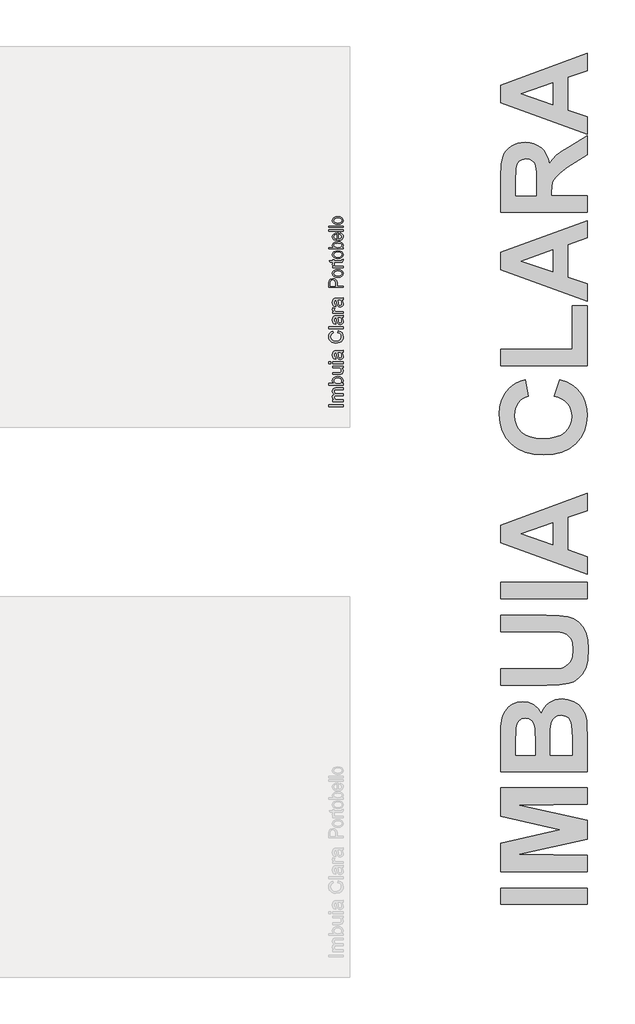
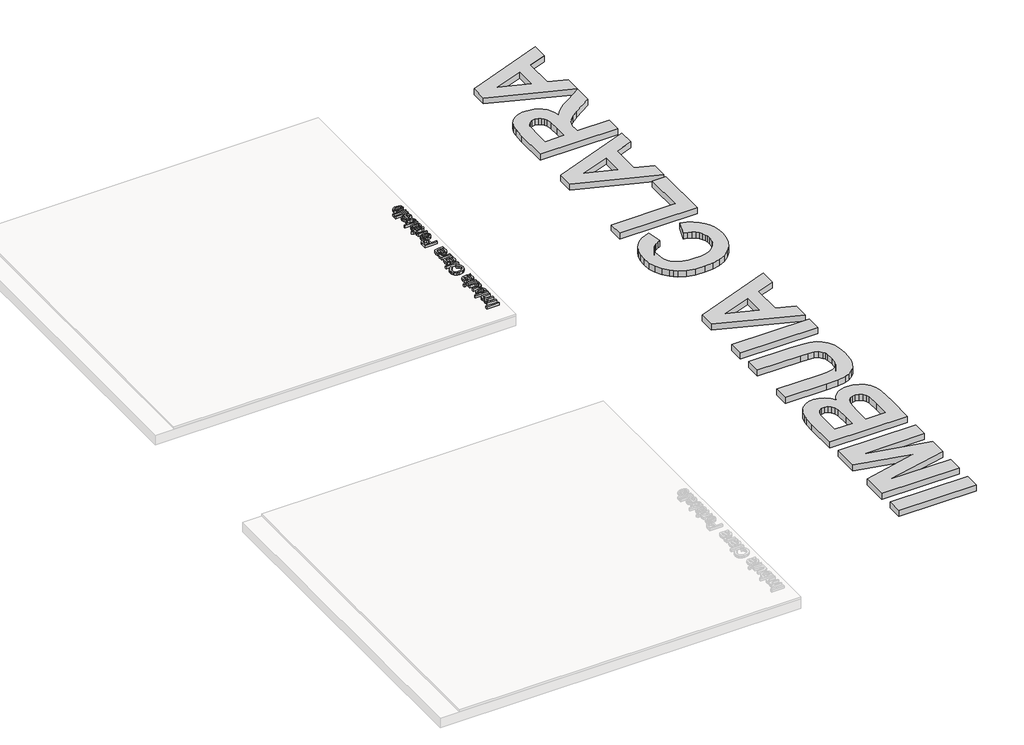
# One storey, part 3 of 10: 3 proxies.
"""IFC4 building model written with IfcOpenShell, lengths in millimetres."""

from ifc_helpers import new_model, si_unit, frame, origin, origin_with_axes, place, context, project, spatial, polyline, outline, extrude, element, save

model = new_model("IFC4")

# Units and contexts
model_context = context("Model", 3, world=origin())
ifc_project = project(units=[si_unit("LENGTHUNIT", "METRE", prefix="MILLI")], contexts=[model_context])

# Site, building, storey
site = spatial("IfcSite", under=ifc_project)
building = spatial("IfcBuilding", under=site)
storey = spatial("IfcBuildingStorey", under=building, Name="PORTOBELLO - SHOWROOM", Elevation=0.0)

# Proxies
placement = place(None, origin())
element("IfcBuildingElementProxy", 1, Name="10mm Arial", ObjectType="10mm Arial", at=placement, inside=storey, context=model_context, shape_type="SweptSolid", body=[
    extrude(outline(polyline([(154197.2239346, -5179.927129), (154096.7676245, -5179.927129), (154096.7676245, -5167.3700902), (154197.2239346, -5167.3700902), (154197.2239346, -5179.927129)])), frame((0.0, 0.0, 17.0), z_axis=(0.0, 0.0, 1.0), x_axis=(1.0, 0.0, 0.0)), (0.0, 0.0, 1.0), 20.0),
    extrude(outline(polyline([(154197.2239346, -5143.8256425), (154123.4513318, -5143.8256425), (154123.4513318, -5131.2686037), (154135.5914377, -5131.2686037), (154125.6463611, -5122.6356396), (154121.881702, -5110.3483809), (154125.7199375, -5097.7668167), (154136.4743545, -5090.8506352), (154125.5298651, -5081.0527114), (154121.881702, -5068.6796136), (154123.3992152, -5059.2403748), (154127.9517549, -5052.2598139), (154135.6619484, -5047.9463975), (154146.652423, -5046.5085921), (154197.2239346, -5046.5085921), (154197.2239346, -5059.0656308), (154152.0480256, -5059.0656308), (154141.5633887, -5060.2305905), (154136.4007781, -5064.4489707), (154134.4387408, -5071.6226696), (154139.4664614, -5083.9712419), (154146.0086295, -5087.6592589), (154155.5796927, -5088.8885979), (154197.2239346, -5088.8885979), (154197.2239346, -5101.4456367), (154150.650074, -5101.4456367), (154138.4854427, -5104.3519044), (154134.4387408, -5113.8800481), (154137.1365421, -5123.1751998), (154145.0337422, -5129.3556174), (154160.0188022, -5131.2686037), (154197.2239346, -5131.2686037), (154197.2239346, -5143.8256425)])), frame((0.0, 0.0, 17.0), z_axis=(0.0, 0.0, 1.0), x_axis=(1.0, 0.0, 0.0)), (0.0, 0.0, 1.0), 20.0),
    extrude(outline(polyline([(154197.2239346, -5015.1159951), (154197.2239346, -5027.6730339), (154096.7676245, -5027.6730339), (154096.7676245, -5015.1159951), (154134.0218078, -5015.1159951), (154124.9167285, -5006.3236154), (154121.881702, -4995.3975202), (154124.6162915, -4982.815956), (154132.3050252, -4973.0548203), (154144.26119, -4967.0583438), (154159.2339872, -4964.8878401), (154175.9971435, -4967.1349859), (154188.4683431, -4973.8764235), (154196.2122591, -4983.7693835), (154198.7935644, -4995.4710966), (154195.4642324, -5006.6363151), (154185.4762362, -5015.1159951), (154197.2239346, -5015.1159951)]), holes=[polyline([(154159.8225984, -5015.1159951), (154177.3828323, -5011.6824298), (154184.0231023, -5005.1034735), (154186.2365257, -4996.5502171), (154184.6055822, -4989.3029418), (154179.7127516, -4983.1102615), (154171.5886909, -4978.8612245), (154160.2640568, -4977.4448788), (154148.7738758, -4978.8029765), (154140.7417856, -4982.8772696), (154136.014502, -4988.8768118), (154134.4387408, -4996.0106568), (154136.0696843, -5003.2579322), (154140.9625148, -5009.4506124), (154148.9394227, -5013.6996494), (154159.8225984, -5015.1159951)])]), frame((0.0, 0.0, 17.0), z_axis=(0.0, 0.0, 1.0), x_axis=(1.0, 0.0, 0.0)), (0.0, 0.0, 1.0), 20.0),
    extrude(outline(polyline([(154197.2239346, -4903.6722761), (154184.5442685, -4903.6722761), (154195.2312405, -4913.5069881), (154198.7935644, -4926.333807), (154196.2919669, -4938.142819), (154190.0134475, -4946.2852738), (154180.7673467, -4950.0254074), (154169.0932247, -4950.7611714), (154123.4513318, -4950.7611714), (154123.4513318, -4938.2041327), (154163.1825873, -4938.2041327), (154175.9848807, -4937.4438432), (154183.5019362, -4932.4774363), (154186.2365257, -4923.1209709), (154183.4406225, -4912.636334), (154175.8254652, -4905.7078898), (154161.8336867, -4903.6722761), (154123.4513318, -4903.6722761), (154123.4513318, -4891.1152373), (154197.2239346, -4891.1152373), (154197.2239346, -4903.6722761)])), frame((0.0, 0.0, 17.0), z_axis=(0.0, 0.0, 1.0), x_axis=(1.0, 0.0, 0.0)), (0.0, 0.0, 1.0), 20.0),
    extrude(outline(polyline([(154109.3246632, -4873.849309), (154096.7676245, -4873.849309), (154096.7676245, -4861.2922702), (154109.3246632, -4861.2922702), (154109.3246632, -4873.849309)])), frame((0.0, 0.0, 17.0), z_axis=(0.0, 0.0, 1.0), x_axis=(1.0, 0.0, 0.0)), (0.0, 0.0, 1.0), 20.0),
    extrude(outline(polyline([(154197.2239346, -4873.849309), (154123.4513318, -4873.849309), (154123.4513318, -4861.2922702), (154197.2239346, -4861.2922702), (154197.2239346, -4873.849309)])), frame((0.0, 0.0, 17.0), z_axis=(0.0, 0.0, 1.0), x_axis=(1.0, 0.0, 0.0)), (0.0, 0.0, 1.0), 20.0),
    extrude(outline(polyline([(154187.8061555, -4795.3678167), (154196.3164923, -4807.5447107), (154198.7935644, -4820.996929), (154197.3036424, -4831.4907629), (154192.8338761, -4839.2316132), (154186.0464533, -4844.0048821), (154177.6035615, -4845.5959718), (154167.6707477, -4843.192476), (154160.4602606, -4836.8771685), (154156.3399822, -4828.0847888), (154154.4515213, -4817.2200072), (154150.1350392, -4795.4413931), (154147.3391361, -4795.3678167), (154138.0685098, -4798.8259074), (154134.4387408, -4812.7073214), (154136.8544992, -4825.4115129), (154145.4261497, -4831.4693031), (154143.8565198, -4844.0263419), (154131.5937867, -4838.5939511), (154124.407825, -4827.6555931), (154121.881702, -4811.0886406), (154124.1135194, -4795.8705887), (154129.7175885, -4787.2744128), (154138.240188, -4783.4239146), (154149.227597, -4782.8107779), (154164.850319, -4782.8107779), (154186.6657213, -4782.1731158), (154197.2239346, -4779.6715182), (154197.2239346, -4792.228557), (154187.8061555, -4795.3678167)]), holes=[polyline([(154162.692078, -4795.3678167), (154166.5425762, -4815.6258519), (154168.5781899, -4826.4293198), (154171.8891279, -4831.3221503), (154176.7206447, -4833.038933), (154183.5141989, -4829.2987994), (154186.2365257, -4818.3236532), (154183.2321561, -4805.6194616), (154175.9603553, -4797.4279558), (154166.2482706, -4795.4413931), (154162.692078, -4795.3678167)])]), frame((0.0, 0.0, 17.0), z_axis=(0.0, 0.0, 1.0), x_axis=(1.0, 0.0, 0.0)), (0.0, 0.0, 1.0), 20.0),
    extrude(outline(polyline([(154161.5148556, -4654.1011305), (154164.7522172, -4641.5440918), (154179.3847235, -4647.3382332), (154190.0747612, -4656.4310498), (154196.6138636, -4668.3749519), (154198.7935644, -4682.7223498), (154197.1442268, -4697.2874111), (154192.196214, -4708.8542341), (154184.1212042, -4717.7201902), (154173.0908757, -4724.1826506), (154146.2354901, -4729.4433631), (154131.5876553, -4727.9565067), (154118.938646, -4723.4959376), (154108.6900668, -4716.2946475), (154101.2435221, -4706.5856285), (154096.7093765, -4695.0709221), (154095.1979946, -4682.4525696), (154097.1539005, -4668.684586), (154103.0216184, -4657.3017039), (154112.4393974, -4648.6595427), (154125.0454871, -4643.1137216), (154128.037594, -4655.6707604), (154112.598813, -4665.9714562), (154107.7550334, -4682.943079), (154113.1261105, -4702.5879775), (154127.5470847, -4713.685751), (154146.2109646, -4716.8863244), (154167.8424259, -4713.0971398), (154181.6625262, -4701.3003905), (154186.2365257, -4683.9731485), (154184.6791586, -4673.4915774), (154180.0070572, -4664.7574457), (154172.2692726, -4658.1631609), (154161.5148556, -4654.1011305)])), frame((0.0, 0.0, 17.0), z_axis=(0.0, 0.0, 1.0), x_axis=(1.0, 0.0, 0.0)), (0.0, 0.0, 1.0), 20.0),
    extrude(outline(polyline([(154197.2239346, -4625.8477933), (154096.7676245, -4625.8477933), (154096.7676245, -4613.2907545), (154197.2239346, -4613.2907545), (154197.2239346, -4625.8477933)])), frame((0.0, 0.0, 17.0), z_axis=(0.0, 0.0, 1.0), x_axis=(1.0, 0.0, 0.0)), (0.0, 0.0, 1.0), 20.0),
    extrude(outline(polyline([(154187.8061555, -4547.366301), (154196.3164923, -4559.543195), (154198.7935644, -4572.9954133), (154197.3036424, -4583.4892472), (154192.8338761, -4591.2300976), (154186.0464533, -4596.0033664), (154177.6035615, -4597.5944561), (154167.6707477, -4595.1909604), (154160.4602606, -4588.8756528), (154156.3399822, -4580.0832731), (154154.4515213, -4569.2184915), (154150.1350392, -4547.4398774), (154147.3391361, -4547.366301), (154138.0685098, -4550.8243917), (154134.4387408, -4564.7058057), (154136.8544992, -4577.4099973), (154145.4261497, -4583.4677875), (154143.8565198, -4596.0248262), (154131.5937867, -4590.5924354), (154124.407825, -4579.6540774), (154121.881702, -4563.0871249), (154124.1135194, -4547.8690731), (154129.7175885, -4539.2728971), (154138.240188, -4535.4223989), (154149.227597, -4534.8092622), (154164.850319, -4534.8092622), (154186.6657213, -4534.1716001), (154197.2239346, -4531.6700025), (154197.2239346, -4544.2270413), (154187.8061555, -4547.366301)]), holes=[polyline([(154162.692078, -4547.366301), (154166.5425762, -4567.6243362), (154168.5781899, -4578.4278041), (154171.8891279, -4583.3206347), (154176.7206447, -4585.0374173), (154183.5141989, -4581.2972837), (154186.2365257, -4570.3221375), (154183.2321561, -4557.6179459), (154175.9603553, -4549.4264402), (154166.2482706, -4547.4398774), (154162.692078, -4547.366301)])]), frame((0.0, 0.0, 17.0), z_axis=(0.0, 0.0, 1.0), x_axis=(1.0, 0.0, 0.0)), (0.0, 0.0, 1.0), 20.0),
    extrude(outline(polyline([(154197.2239346, -4517.5433339), (154123.4513318, -4517.5433339), (154123.4513318, -4506.555925), (154134.3651644, -4506.555925), (154124.3097232, -4498.7568267), (154121.881702, -4490.9086775), (154125.7567257, -4478.3025878), (154137.0139147, -4482.4964425), (154134.4387408, -4491.3256104), (154136.9158129, -4498.4257329), (154143.7829434, -4502.9506814), (154158.4491723, -4504.9862952), (154197.2239346, -4504.9862952), (154197.2239346, -4517.5433339)])), frame((0.0, 0.0, 17.0), z_axis=(0.0, 0.0, 1.0), x_axis=(1.0, 0.0, 0.0)), (0.0, 0.0, 1.0), 20.0),
    extrude(outline(polyline([(154187.8061555, -4423.3655432), (154196.3164923, -4435.5424372), (154198.7935644, -4448.9946555), (154197.3036424, -4459.4884894), (154192.8338761, -4467.2293397), (154186.0464533, -4472.0026086), (154177.6035615, -4473.5936982), (154167.6707477, -4471.1902025), (154160.4602606, -4464.8748949), (154156.3399822, -4456.0825153), (154154.4515213, -4445.2177337), (154150.1350392, -4423.4391196), (154147.3391361, -4423.3655432), (154138.0685098, -4426.8236339), (154134.4387408, -4440.7050479), (154136.8544992, -4453.4092394), (154145.4261497, -4459.4670296), (154143.8565198, -4472.0240684), (154131.5937867, -4466.5916776), (154124.407825, -4455.6533196), (154121.881702, -4439.0863671), (154124.1135194, -4423.8683152), (154129.7175885, -4415.2721393), (154138.240188, -4411.421641), (154149.227597, -4410.8085044), (154164.850319, -4410.8085044), (154186.6657213, -4410.1708423), (154197.2239346, -4407.6692447), (154197.2239346, -4420.2262835), (154187.8061555, -4423.3655432)]), holes=[polyline([(154162.692078, -4423.3655432), (154166.5425762, -4443.6235784), (154168.5781899, -4454.4270463), (154171.8891279, -4459.3198768), (154176.7206447, -4461.0366595), (154183.5141989, -4457.2965258), (154186.2365257, -4446.3213797), (154183.2321561, -4433.6171881), (154175.9603553, -4425.4256823), (154166.2482706, -4423.4391196), (154162.692078, -4423.3655432)])]), frame((0.0, 0.0, 17.0), z_axis=(0.0, 0.0, 1.0), x_axis=(1.0, 0.0, 0.0)), (0.0, 0.0, 1.0), 20.0),
])
element("IfcBuildingElementProxy", 2, Name="10mm Arial Narrow", ObjectType="10mm Arial Narrow", at=placement, inside=storey, context=model_context, shape_type="SweptSolid", body=[
    extrude(outline(polyline([(154197.2239346, -4334.1828592), (154096.5053309, -4334.1828592), (154096.5053309, -4302.8859745), (154098.3836516, -4286.590273), (154107.8640948, -4275.1172869), (154124.8832036, -4270.8276084), (154136.9590291, -4272.6139168), (154146.5854229, -4277.972842), (154152.8866813, -4287.7166309), (154154.9871008, -4302.6575301), (154154.9871008, -4324.4358975), (154197.2239346, -4324.4358975), (154197.2239346, -4334.1828592)]), holes=[polyline([(154143.6156455, -4324.4358975), (154143.6156455, -4301.4645426), (154139.0848313, -4285.6003472), (154125.4162405, -4280.5745701), (154115.2504641, -4283.0493846), (154109.4505143, -4289.0270134), (154107.8767861, -4301.692987), (154107.8767861, -4324.4358975), (154143.6156455, -4324.4358975)])]), frame((0.0, 0.0, 17.0), z_axis=(0.0, 0.0, 1.0), x_axis=(1.0, 0.0, 0.0)), (0.0, 0.0, 1.0), 20.0),
    extrude(outline(polyline([(154160.6728284, -4262.7051404), (154144.0820529, -4260.7506715), (154132.129968, -4254.8872649), (154124.9054135, -4246.0286982), (154122.4972286, -4235.088749), (154124.9054135, -4224.2757135), (154132.129968, -4215.391764), (154143.8916825, -4209.4522093), (154159.911347, -4207.4723577), (154177.0732336, -4209.417308), (154189.2156888, -4215.2521591), (154196.4402434, -4224.1012073), (154198.8484282, -4235.088749), (154196.4338977, -4245.9493772), (154189.1903061, -4254.8238081), (154177.2318756, -4260.7348073), (154160.6728284, -4262.7051404)]), holes=[polyline([(154160.6474457, -4252.9581787), (154173.1991971, -4251.6541419), (154182.0704552, -4247.7420313), (154187.3437137, -4241.9008345), (154189.1014666, -4234.8095392), (154187.3278495, -4228.089466), (154182.0069984, -4222.3973927), (154173.1198761, -4218.5138377), (154160.6474457, -4217.2193193), (154148.1337684, -4218.5233562), (154139.2752016, -4222.4354668), (154134.0019431, -4228.2766635), (154132.2441902, -4235.3679589), (154134.0114616, -4242.1356246), (154139.3132757, -4247.8181794), (154148.1813609, -4251.6731789), (154160.6474457, -4252.9581787)])]), frame((0.0, 0.0, 17.0), z_axis=(0.0, 0.0, 1.0), x_axis=(1.0, 0.0, 0.0)), (0.0, 0.0, 1.0), 20.0),
    extrude(outline(polyline([(154189.1014666, -4135.9946389), (154198.8484282, -4134.3701453), (154198.8484282, -4141.731132), (154196.7289717, -4150.0058963), (154190.9290219, -4154.3209574), (154176.2831967, -4155.4885622), (154133.8686839, -4155.4885622), (154133.8686839, -4163.6110303), (154130.6196966, -4163.6110303), (154135.4931775, -4165.2355239), (154133.8686839, -4172.7995722), (154136.1912021, -4178.8787319), (154142.6764851, -4182.7495956), (154158.0837917, -4184.7294472), (154197.2239346, -4184.7294472), (154197.2239346, -4194.4764088), (154124.1217222, -4194.4764088), (154124.1217222, -4184.7294472), (154133.8179184, -4184.7294472), (154124.7309073, -4178.4852999), (154122.4972286, -4172.0888563), (154124.1217222, -4163.6110303), (154124.1217222, -4155.4885622), (154107.8767861, -4155.4885622), (154099.7543181, -4145.7416006), (154124.1217222, -4145.7416006), (154124.1217222, -4135.9946389), (154133.8686839, -4135.9946389), (154133.8686839, -4145.7416006), (154178.5168754, -4145.7416006), (154186.5124299, -4144.8785883), (154189.1014666, -4140.2589346), (154189.1014666, -4135.9946389)])), frame((0.0, 0.0, 17.0), z_axis=(0.0, 0.0, 1.0), x_axis=(1.0, 0.0, 0.0)), (0.0, 0.0, 1.0), 20.0),
    extrude(outline(polyline([(154160.6728284, -4129.4966645), (154144.0820529, -4127.5421956), (154132.129968, -4121.678789), (154124.9054135, -4112.8202223), (154122.4972286, -4101.8802731), (154124.9054135, -4091.0672375), (154132.129968, -4082.1832881), (154143.8916825, -4076.2437333), (154159.911347, -4074.2638818), (154177.0732336, -4076.2088321), (154189.2156888, -4082.0436832), (154196.4402434, -4090.8927314), (154198.8484282, -4101.8802731), (154196.4338977, -4112.7409013), (154189.1903061, -4121.6153322), (154177.2318756, -4127.5263314), (154160.6728284, -4129.4966645)]), holes=[polyline([(154160.6474457, -4119.7497028), (154173.1991971, -4118.4456659), (154182.0704552, -4114.5335554), (154187.3437137, -4108.6923586), (154189.1014666, -4101.6010633), (154187.3278495, -4094.8809901), (154182.0069984, -4089.1889168), (154173.1198761, -4085.3053618), (154160.6474457, -4084.0108434), (154148.1337684, -4085.3148803), (154139.2752016, -4089.2269909), (154134.0019431, -4095.0681876), (154132.2441902, -4102.159483), (154134.0114616, -4108.9271487), (154139.3132757, -4114.6097035), (154148.1813609, -4118.464703), (154160.6474457, -4119.7497028)])]), frame((0.0, 0.0, 17.0), z_axis=(0.0, 0.0, 1.0), x_axis=(1.0, 0.0, 0.0)), (0.0, 0.0, 1.0), 20.0),
    extrude(outline(polyline([(154197.2239346, -4051.5209712), (154197.2239346, -4061.2679329), (154096.5053309, -4061.2679329), (154096.5053309, -4051.5209712), (154131.914215, -4051.5209712), (154124.8324382, -4044.1219105), (154122.4972286, -4034.9206772), (154126.6980675, -4022.0389505), (154139.4274979, -4012.761569), (154160.1144087, -4009.2841374), (154176.5687522, -4011.2163964), (154188.7714913, -4017.0131734), (154196.329194, -4025.3862957), (154198.8484282, -4035.0475907), (154196.2340088, -4044.388429), (154188.4668987, -4051.5209712), (154197.2239346, -4051.5209712)]), holes=[polyline([(154160.1144087, -4051.5209712), (154177.361962, -4049.4395888), (154186.0936151, -4043.5507995), (154189.1014666, -4035.0983562), (154187.3119853, -4029.1556286), (154181.9435416, -4023.9172712), (154160.5205321, -4019.0310991), (154139.0848313, -4023.7395923), (154133.9543505, -4028.9842953), (154132.2441902, -4035.3014179), (154134.0336715, -4041.2790467), (154139.4021152, -4046.5713423), (154160.1144087, -4051.5209712)])]), frame((0.0, 0.0, 17.0), z_axis=(0.0, 0.0, 1.0), x_axis=(1.0, 0.0, 0.0)), (0.0, 0.0, 1.0), 20.0),
    extrude(outline(polyline([(154174.4810241, -3957.3003419), (154176.1055177, -3947.5533803), (154185.9920843, -3951.2529106), (154193.1119352, -3957.0718975), (154197.4143049, -3964.7755508), (154198.8484282, -3974.1290804), (154196.4338977, -3985.7226344), (154189.1903061, -3994.8667566), (154177.3841718, -4000.8063114), (154161.2820135, -4002.786163), (154144.6150898, -4000.7967929), (154132.4345606, -3994.8286826), (154124.9815616, -3985.8146467), (154122.4972286, -3974.6875001), (154124.8958949, -3964.0045509), (154132.091894, -3955.2570336), (154143.8313986, -3949.4221825), (154159.8605816, -3947.4772321), (154163.1095688, -3947.5533803), (154163.1095688, -3993.0392013), (154182.5527267, -3987.0361898), (154187.4642816, -3981.1061535), (154189.1014666, -3974.0021668), (154185.4463559, -3963.8236991), (154174.4810241, -3957.3003419)]), holes=[polyline([(154153.3626072, -3992.3792508), (154153.3626072, -3957.3003419), (154139.0975227, -3961.5646376), (154133.9575233, -3967.3899702), (154132.2441902, -3974.6113519), (154137.9553006, -3986.8204367), (154153.3626072, -3992.3792508)])]), frame((0.0, 0.0, 17.0), z_axis=(0.0, 0.0, 1.0), x_axis=(1.0, 0.0, 0.0)), (0.0, 0.0, 1.0), 20.0),
    extrude(outline(polyline([(154197.2239346, -3934.5574314), (154096.5053309, -3934.5574314), (154096.5053309, -3924.8104697), (154197.2239346, -3924.8104697), (154197.2239346, -3934.5574314)])), frame((0.0, 0.0, 17.0), z_axis=(0.0, 0.0, 1.0), x_axis=(1.0, 0.0, 0.0)), (0.0, 0.0, 1.0), 20.0),
    extrude(outline(polyline([(154197.2239346, -3908.5655337), (154096.5053309, -3908.5655337), (154096.5053309, -3898.818572), (154197.2239346, -3898.818572), (154197.2239346, -3908.5655337)])), frame((0.0, 0.0, 17.0), z_axis=(0.0, 0.0, 1.0), x_axis=(1.0, 0.0, 0.0)), (0.0, 0.0, 1.0), 20.0),
    extrude(outline(polyline([(154160.6728284, -3887.4471167), (154144.0820529, -3885.4926479), (154132.129968, -3879.6292412), (154124.9054135, -3870.7706745), (154122.4972286, -3859.8307254), (154124.9054135, -3849.0176898), (154132.129968, -3840.1337404), (154143.8916825, -3834.1941856), (154159.911347, -3832.214334), (154177.0732336, -3834.1592844), (154189.2156888, -3839.9941355), (154196.4402434, -3848.8431836), (154198.8484282, -3859.8307254), (154196.4338977, -3870.6913536), (154189.1903061, -3879.5657845), (154177.2318756, -3885.4767837), (154160.6728284, -3887.4471167)]), holes=[polyline([(154160.6474457, -3877.7001551), (154173.1991971, -3876.3961182), (154182.0704552, -3872.4840076), (154187.3437137, -3866.6428109), (154189.1014666, -3859.5515155), (154187.3278495, -3852.8314424), (154182.0069984, -3847.1393691), (154173.1198761, -3843.255814), (154160.6474457, -3841.9612957), (154148.1337684, -3843.2653325), (154139.2752016, -3847.1774431), (154134.0019431, -3853.0186399), (154132.2441902, -3860.1099352), (154134.0114616, -3866.877601), (154139.3132757, -3872.5601558), (154148.1813609, -3876.4151553), (154160.6474457, -3877.7001551)])]), frame((0.0, 0.0, 17.0), z_axis=(0.0, 0.0, 1.0), x_axis=(1.0, 0.0, 0.0)), (0.0, 0.0, 1.0), 20.0),
])
element("IfcBuildingElementProxy", 3, Name="600mm Arial", ObjectType="600mm Arial", at=placement, inside=storey, context=model_context, shape_type="SweptSolid", body=[
    extrude(outline(polyline([(155927.5101942, -8708.8014324), (155315.3545543, -8708.8014324), (155315.3545543, -8592.2003582), (155927.5101942, -8592.2003582), (155927.5101942, -8708.8014324)])), origin_with_axes(), (0.0, 0.0, 1.0), 50.0),
    extrude(outline(polyline([(155927.5101942, -8475.5992839), (155315.3545543, -8475.5992839), (155315.3545543, -8275.7984847), (155732.8714218, -8179.2382201), (155315.3545543, -8082.6779554), (155315.3545543, -7882.8771563), (155927.5101942, -7882.8771563), (155927.5101942, -7999.4782306), (155445.6198169, -8004.3366087), (155927.5101942, -8110.9172781), (155927.5101942, -8247.4073377), (155445.6198169, -8354.1398315), (155927.5101942, -8358.9982096), (155927.5101942, -8475.5992839)])), origin_with_axes(), (0.0, 0.0, 1.0), 50.0),
    extrude(outline(polyline([(155315.3545543, -7766.276082), (155315.3545543, -7515.0068399), (155316.8727974, -7449.9311427), (155321.4275269, -7403.7955288), (155330.8216564, -7369.0657167), (155346.8580997, -7338.2074245), (155369.4040106, -7311.6951035), (155398.3265427, -7290.0032044), (155432.3921234, -7275.5419383), (155470.3671804, -7270.7215163), (155511.7393063, -7276.4718623), (155549.619473, -7293.7229001), (155581.2368867, -7320.8425185), (155603.8207537, -7356.1986059), (155613.3667075, -7332.3811664), (155625.7593672, -7311.486345), (155640.9987329, -7293.5141417), (155659.0848045, -7278.4645564), (155679.4577298, -7266.5748147), (155701.5576567, -7258.082142), (155725.3845852, -7252.9865385), (155750.9385153, -7251.2880039), (155791.9500586, -7256.1653601), (155831.7849633, -7270.7974285), (155867.0841167, -7293.8747244), (155894.4884056, -7324.0877632), (155913.447467, -7361.7971276), (155923.4109377, -7407.3634002), (155927.5101942, -7557.0621753), (155927.5101942, -7766.276082), (155315.3545543, -7766.276082)]), holes=[polyline([(155665.1577771, -7649.6750077), (155820.6258761, -7649.6750077), (155820.6258761, -7526.3936636), (155816.9820926, -7434.9954257), (155808.8405137, -7408.0086536), (155793.8288845, -7386.563469), (155772.2508536, -7372.5576759), (155744.4100698, -7367.8890782), (155720.2700036, -7371.4949057), (155700.0773697, -7382.3123882), (155684.3255969, -7399.9240088), (155673.5081145, -7423.9122506), (155667.2453614, -7467.0303562), (155665.1577771, -7542.0315681), (155665.1577771, -7649.6750077)]), polyline([(155422.2388724, -7649.6750077), (155558.273459, -7649.6750077), (155558.273459, -7560.7059589), (155556.2997429, -7462.0201538), (155549.2019562, -7430.9531033), (155535.1961631, -7407.2874881), (155514.965573, -7392.313815), (155489.1933955, -7387.3225906), (155464.5409222, -7391.6306055), (155444.9366075, -7404.5546504), (155431.215485, -7425.9429008), (155424.2125885, -7455.6435326), (155422.2388724, -7571.6373096), (155422.2388724, -7649.6750077)])]), origin_with_axes(), (0.0, 0.0, 1.0), 50.0),
    extrude(outline(polyline([(155315.3545543, -7154.120442), (155315.3545543, -7037.5193678), (155645.5724404, -7037.5193678), (155710.4014231, -7036.2668171), (155747.5983804, -7032.5091653), (155765.3570808, -7026.6923963), (155781.2844004, -7017.896075), (155795.3803392, -7006.1202015), (155807.6448972, -6991.3647758), (155817.5751563, -6973.629798), (155824.6681985, -6952.915268), (155830.3426323, -6902.5475513), (155824.9908252, -6852.2367688), (155818.3010663, -6832.390484), (155808.9354039, -6816.0836036), (155785.0800083, -6792.7975493), (155756.3282785, -6781.0880989), (155714.8233063, -6776.6472377), (155652.7081832, -6775.1669506), (155315.3545543, -6775.1669506), (155315.3545543, -6658.5658763), (155636.4629815, -6658.5658763), (155730.4801888, -6661.1089336), (155792.0829048, -6668.7381055), (155833.9674379, -6683.1993715), (155868.8300963, -6706.2387114), (155896.9745288, -6738.1787518), (155918.7043839, -6779.3421193), (155932.5963088, -6832.120047), (155937.2269504, -6898.9037677), (155932.1787919, -6977.1312463), (155925.8685938, -7008.1888078), (155917.0343165, -7033.8755842), (155893.8051962, -7075.0579298), (155864.5031033, -7106.5994313), (155831.3674465, -7128.7657813), (155796.6376343, -7141.8226725), (155731.5809151, -7151.0459996), (155641.4731839, -7154.120442), (155315.3545543, -7154.120442)])), origin_with_axes(), (0.0, 0.0, 1.0), 50.0),
    extrude(outline(polyline([(155927.5101942, -6541.9648021), (155315.3545543, -6541.9648021), (155315.3545543, -6425.3637278), (155927.5101942, -6425.3637278), (155927.5101942, -6541.9648021)])), origin_with_axes(), (0.0, 0.0, 1.0), 50.0),
    extrude(outline(polyline([(155927.5101942, -5793.7745754), (155927.5101942, -5916.296798), (155791.4756076, -5964.2732817), (155791.4756076, -6195.5017142), (155927.5101942, -6242.8709006), (155927.5101942, -6367.0631906), (155315.3545543, -6143.5777983), (155315.3545543, -6019.3855082), (155927.5101942, -5793.7745754)]), holes=[polyline([(155684.5912895, -6001.6220633), (155461.1058971, -6080.418883), (155684.5912895, -6158.1529326), (155684.5912895, -6001.6220633)])]), origin_with_axes(), (0.0, 0.0, 1.0), 50.0),
    extrude(outline(polyline([(155694.3080457, -5103.8848859), (155733.1750704, -4987.2838116), (155779.2774727, -5003.3866781), (155819.0506989, -5024.0632521), (155852.4947489, -5049.3135335), (155879.6096227, -5079.1375225), (155900.5661227, -5113.4118617), (155915.5350514, -5152.0131939), (155924.5164085, -5194.9415191), (155927.5101942, -5242.1968373), (155922.3956126, -5300.5827756), (155907.0518677, -5353.5220166), (155881.4789596, -5401.0145603), (155845.6768882, -5443.0604067), (155801.0025834, -5477.4675922), (155748.8129749, -5502.0441532), (155689.1080629, -5516.7900899), (155621.8878472, -5521.7054021), (155551.0048699, -5516.7473893), (155488.5101861, -5501.8733509), (155434.4037956, -5477.0832869), (155410.4962105, -5460.9697453), (155388.6856986, -5442.3771973), (155352.3522421, -5399.5864629), (155326.3997732, -5350.5424644), (155310.8282919, -5295.245202), (155305.6377981, -5233.6946757), (155309.917346, -5179.8729558), (155322.7559896, -5131.365087), (155344.1537291, -5088.1710693), (155374.1105643, -5050.2909026), (155396.5141399, -5030.5822086), (155423.3395986, -5013.5114621), (155454.5869406, -4999.0786632), (155490.2561657, -4987.2838116), (155509.6896781, -5103.8848859), (155488.3346392, -5111.2341317), (155469.3613443, -5121.743221), (155452.7697933, -5135.4121539), (155438.5599863, -5152.2409304), (155427.1684181, -5171.6412312), (155419.0315837, -5193.0247371), (155414.149483, -5216.3914482), (155412.5221162, -5241.7413644), (155415.4779458, -5276.3905199), (155424.3454347, -5307.6141392), (155439.1245829, -5335.4122225), (155459.8153904, -5359.7847697), (155487.1200447, -5379.6120764), (155521.7407331, -5393.7744383), (155563.6774557, -5402.2718554), (155612.9302126, -5405.1043278), (155665.0628869, -5402.3572566), (155709.1109164, -5394.116043), (155745.0743012, -5380.3806869), (155772.9530411, -5361.1511885), (155793.8099064, -5337.5187849), (155808.7076674, -5310.5747134), (155817.646324, -5280.318974), (155820.6258761, -5246.7515668), (155818.7233277, -5221.7622334), (155813.0156823, -5198.5663247), (155803.5029401, -5177.1638407), (155790.1851009, -5157.5547814), (155772.7774942, -5140.1661528), (155750.9954495, -5125.4249607), (155724.8389666, -5113.3312051), (155694.3080457, -5103.8848859)])), origin_with_axes(), (0.0, 0.0, 1.0), 50.0),
    extrude(outline(polyline([(155927.5101942, -4890.1162497), (155315.3545543, -4890.1162497), (155315.3545543, -4773.5151755), (155820.6258761, -4773.5151755), (155820.6258761, -4462.5789774), (155927.5101942, -4462.5789774), (155927.5101942, -4890.1162497)])), origin_with_axes(), (0.0, 0.0, 1.0), 50.0),
    extrude(outline(polyline([(155927.5101942, -3860.1400936), (155927.5101942, -3982.6623162), (155791.4756076, -4030.6387999), (155791.4756076, -4261.8672323), (155927.5101942, -4309.2364188), (155927.5101942, -4433.4287088), (155315.3545543, -4209.9433164), (155315.3545543, -4085.7510264), (155927.5101942, -3860.1400936)]), holes=[polyline([(155684.5912895, -4067.9875815), (155461.1058971, -4146.7844012), (155684.5912895, -4224.5184507), (155684.5912895, -4067.9875815)])]), origin_with_axes(), (0.0, 0.0, 1.0), 50.0),
    extrude(outline(polyline([(155927.5101942, -3801.8395565), (155315.3545543, -3801.8395565), (155315.3545543, -3544.3455174), (155319.4917669, -3460.4625831), (155324.6632826, -3428.4845867), (155331.9034046, -3403.148904), (155341.7909632, -3382.2351046), (155354.9047884, -3363.5227577), (155371.2448804, -3347.0118634), (155390.811239, -3332.7024217), (155412.7593417, -3321.1447956), (155436.2446655, -3312.8893485), (155461.2672104, -3307.9360802), (155487.8269766, -3306.2849908), (155520.9341664, -3308.6714792), (155551.0238479, -3315.8309446), (155578.0960212, -3327.7633869), (155602.1506862, -3344.4688061), (155622.6090127, -3365.9282242), (155638.8921705, -3392.1226631), (155651.0001597, -3423.0521229), (155658.9329802, -3458.7166035), (155683.3007828, -3424.8977372), (155709.9459502, -3397.5314044), (155748.5472824, -3369.2161695), (155808.7835795, -3332.5505973), (155927.5101942, -3257.7012098), (155927.5101942, -3393.8876208), (155787.6799997, -3482.553021), (155733.9911261, -3525.386456), (155704.7080113, -3552.1644697), (155690.3036794, -3571.4841138), (155681.2511545, -3591.9424403), (155676.4686886, -3619.1000148), (155674.8745333, -3658.5174027), (155674.8745333, -3685.2384822), (155927.5101942, -3685.2384822), (155927.5101942, -3801.8395565)]), holes=[polyline([(155567.9902152, -3685.2384822), (155567.9902152, -3589.1336905), (155566.2252575, -3513.2784669), (155560.9303845, -3472.456704), (155551.3274966, -3451.6947289), (155536.6384941, -3436.0188683), (155517.2619158, -3426.1692659), (155493.5963006, -3422.886065), (155467.3876282, -3427.213058), (155446.7584993, -3440.194037), (155432.2023431, -3461.0698804), (155424.2125885, -3489.0814666), (155422.2388724, -3583.8198394), (155422.2388724, -3685.2384822), (155567.9902152, -3685.2384822)])]), origin_with_axes(), (0.0, 0.0, 1.0), 50.0),
    extrude(outline(polyline([(155927.5101942, -2674.6958384), (155927.5101942, -2797.218061), (155791.4756076, -2845.1945447), (155791.4756076, -3076.4229771), (155927.5101942, -3123.7921636), (155927.5101942, -3247.9844536), (155315.3545543, -3024.4990613), (155315.3545543, -2900.3067712), (155927.5101942, -2674.6958384)]), holes=[polyline([(155684.5912895, -2882.5433263), (155461.1058971, -2961.340146), (155684.5912895, -3039.0741955), (155684.5912895, -2882.5433263)])]), origin_with_axes(), (0.0, 0.0, 1.0), 50.0),
])

save(model, "model.ifc")
